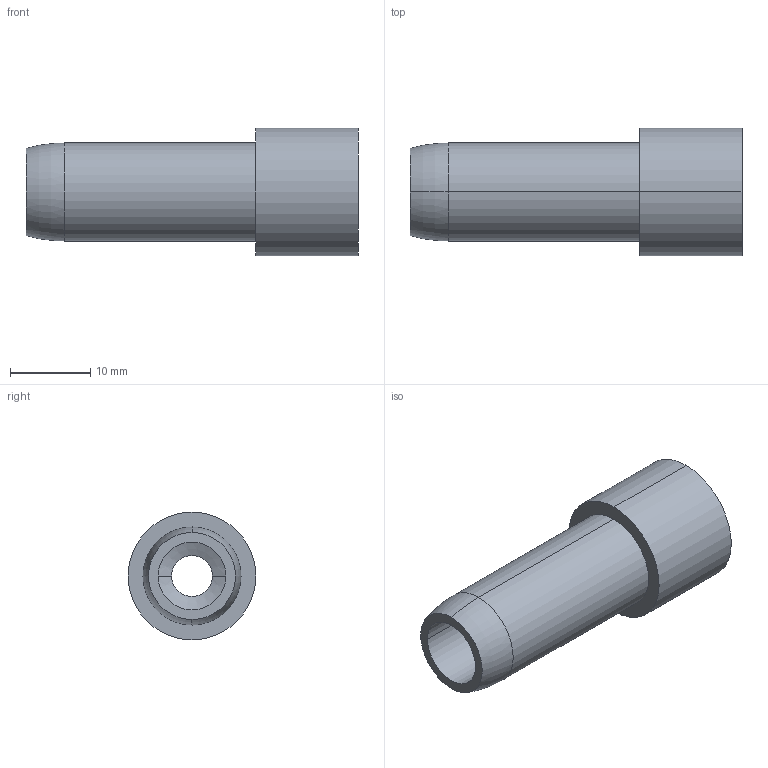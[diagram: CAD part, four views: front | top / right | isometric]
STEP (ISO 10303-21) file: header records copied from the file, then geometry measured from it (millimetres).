
FILE_DESCRIPTION (( 'STEP AP214' ), '1' );
FILE_NAME ('0.500 In. Threaded End Connector.STEP', '2014-08-07T18:51:16', ( 'ydmin' ), ( 'Microsoft' ), 'SwSTEP 2.0', 'SolidWorks 2013', '' );
FILE_SCHEMA (( 'AUTOMOTIVE_DESIGN' ));
Length unit declared in the file: inch
Products named in the file (1): 0.500 In. Threaded End Connector
Bounding box: 41.27 x 15.88 x 15.88 mm (x, y, z)
Volume: 3906.7 mm3; surface area: 3016.8 mm2
Topology: 1 solids, 1 shells, 15 faces, 32 edges, 20 vertices
Faces by surface type: cylinder 8, plane 3, cone 2, torus 2
Entity records: 655 total; most frequent: DIRECTION 86, CARTESIAN_POINT 68, ORIENTED_EDGE 64, AXIS2_PLACEMENT_3D 38, EDGE_CURVE 32, CIRCLE 22, VERTEX_POINT 20, UNCERTAINTY_MEASURE_WITH_UNIT 18
